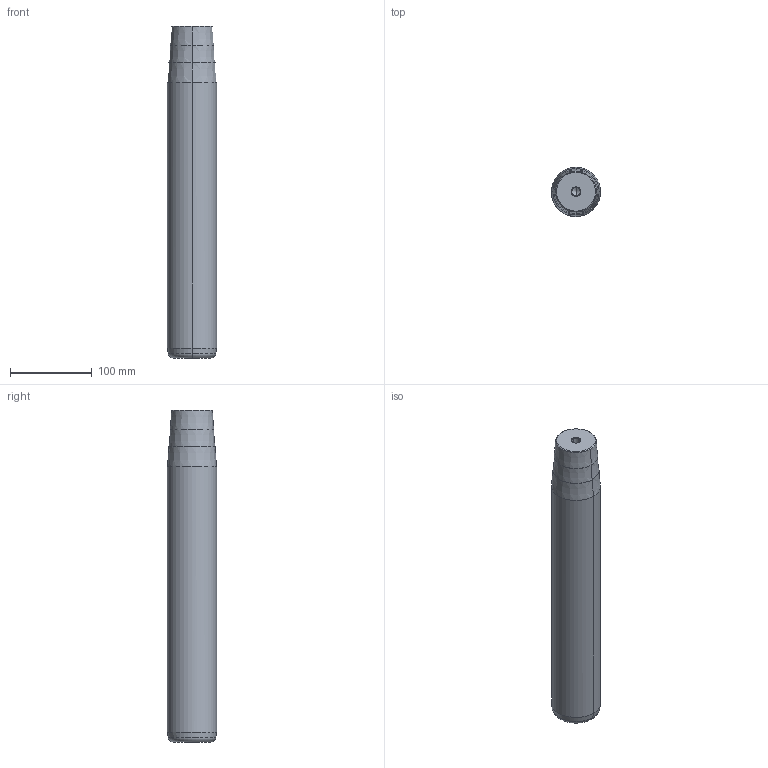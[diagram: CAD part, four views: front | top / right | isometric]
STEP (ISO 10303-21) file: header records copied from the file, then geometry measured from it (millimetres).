
FILE_DESCRIPTION(('CATIA V5 STEP Exchange'),'2;1');
FILE_NAME('C:\Users\Utente\Desktop\IO LAVORO\3D X SITO CF\X SITO\722\722-60x355x406.stp','2021-01-07T19:27:39+00:00',('none'),('none'),'CATIA Version 5 Release 20 GA (IN-10)','CATIA V5 STEP AP203','none');
FILE_SCHEMA(('CONFIG_CONTROL_DESIGN'));
Length unit declared in the file: millimetre
Products named in the file (1): 722-60x355x406
Bounding box: 60 x 60 x 406 mm (x, y, z)
Volume: 1108043.3 mm3; surface area: 81276.4 mm2
Topology: 1 solids, 1 shells, 32 faces, 98 edges, 66 vertices
Faces by surface type: cone 22, cylinder 6, plane 2, torus 2
Entity records: 1172 total; most frequent: CARTESIAN_POINT 285, ORIENTED_EDGE 188, DIRECTION 148, EDGE_CURVE 94, AXIS2_PLACEMENT_3D 89, VERTEX_POINT 66, CIRCLE 56, EDGE_LOOP 34
